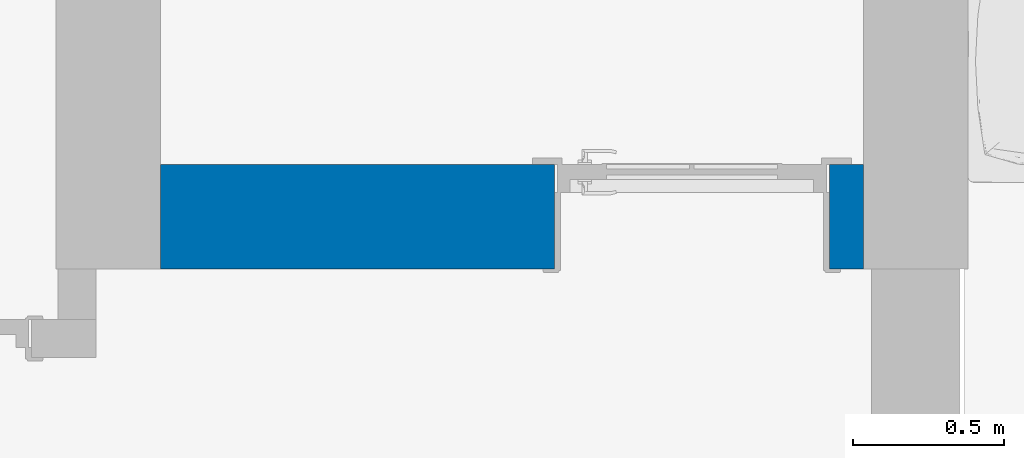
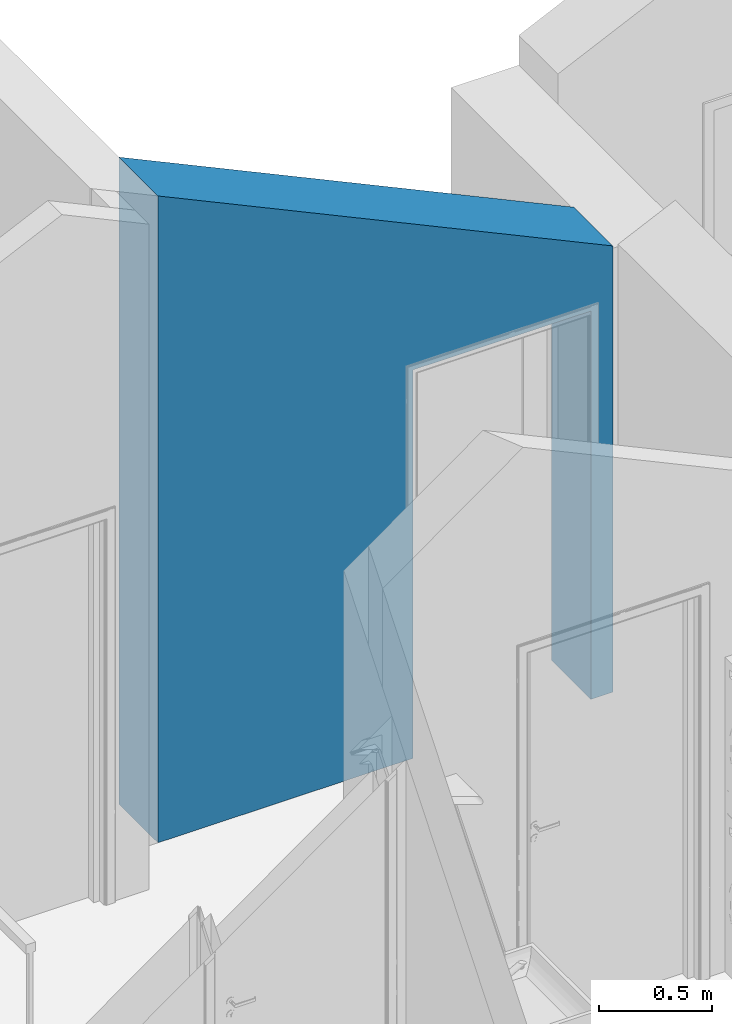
# One storey, part 20 of 44: 1 wall, 1 opening.
"""IFC2X3 building model written with IfcOpenShell, lengths in millimetres."""

from ifc_helpers import new_model, entity, si_unit, converted_unit, direction, frame, frame_2d, origin, place, context, subcontext, project, spatial, polyline, rectangle, extrude, clip, bounded_halfspace, material, layer, layer_set, layer_usage, type_object, element, save


model = new_model("IFC2X3")

# Units and contexts
model_context = context("Model", 3, precision=0.01, world=origin(), true_north=direction((0.0, 1.0)))
body_context = subcontext(model_context, "Body", "Model", "MODEL_VIEW")
ifc_project = project(units=[si_unit("LENGTHUNIT", "METRE", prefix="MILLI"), si_unit("AREAUNIT", "SQUARE_METRE"), si_unit("VOLUMEUNIT", "CUBIC_METRE"), converted_unit("PLANEANGLEUNIT", "DEGREE", entity("IfcPlaneAngleMeasure", 0.017453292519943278), si_unit("PLANEANGLEUNIT", "RADIAN"), dimensions=[0, 0, 0, 0, 0, 0, 0])], contexts=[model_context])

# Site, building, storey
site_placement = place(None, origin())
site = spatial("IfcSite", under=ifc_project, at=site_placement, Name="Default", CompositionType="ELEMENT")
building_placement = place(site_placement, origin())
building = spatial("IfcBuilding", under=site, at=building_placement, CompositionType="ELEMENT")
storey_placement = place(building_placement, frame((0.0, 0.0, 2681.0)))
storey = spatial("IfcBuildingStorey", under=building, at=storey_placement, Name="Et. 2", CompositionType="ELEMENT", Elevation=2681.0)

# Wall, opening
ifc_material_1 = material(Name="Vegg - Stående Kledning_smal - HVIT")
ifc_layer_1 = layer(ifc_material_1, 19.0)
ifc_material_2 = material(Name="Vegg - Utlekting")
ifc_layer_2 = layer(ifc_material_2, 36.0)
ifc_layer_3 = layer(ifc_material_2, 23.0)
ifc_material_3 = material(Name="Vegg - Gips - GU")
ifc_layer_4 = layer(ifc_material_3, 9.0)
ifc_material_4 = material(Name="Vegg - Stender - Isolert")
ifc_layer_5 = layer(ifc_material_4, 198.0)
ifc_material_5 = material(Name="Vegg - Påforing - Isolert")
ifc_layer_6 = layer(ifc_material_5, 48.0)
ifc_material_6 = material(Name="Vegg - Gips - Hvit")
ifc_layer_7 = layer(ifc_material_6, 13.000000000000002)
ifc_layer_set = layer_set([ifc_layer_1, ifc_layer_2, ifc_layer_3, ifc_layer_4, ifc_layer_5, ifc_layer_6, ifc_layer_7], Name="Basic Wall:23-Kv(sm)TIG-19_36_23_9_198_48_13")
ifc_layer_usage = layer_usage(ifc_layer_set, "AXIS2", "NEGATIVE", 173.0)
wall_type = type_object("IfcWallType", Name="Basic Wall:23-Kv(sm)TIG-19_36_23_9_198_48_13", PredefinedType="STANDARD", material=ifc_layer_set)
wall_placement = place(storey_placement, frame((19678.009586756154, 15822.180957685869, 0.0)))
wall = element("IfcWallStandardCase", 1, at=wall_placement, inside=storey, type_object=wall_type, material=ifc_layer_usage, Name="Basic Wall:23-Kv(sm)TIG-19_36_23_9_198_48_13", context=body_context, shape_type="Clipping", body=[
    clip(extrude(rectangle(XDim=2327.000000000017, YDim=345.9999999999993, at=frame_2d((1163.5000000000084, -9.094947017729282e-13), x_axis=(1.0, 0.0))), origin(), (0.0, 0.0, 1.0), 3497.6882272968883), bounded_halfspace(frame((0.0, -173.0, 3497.6882272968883), z_axis=(0.42261826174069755, 0.0, 0.9063077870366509), x_axis=(0.0, 1.0, 0.0)), False, frame((0.0, -173.0, 3497.6882272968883)), polyline([(0.0, 0.0), (2327.0, 0.0), (2327.0, 346.0), (0.0, 346.0), (0.0, 0.0)]))),
])
opening_placement = place(wall_placement, frame((1304.0, -173.0, 0.0)))
element("IfcOpeningElement", 2, at=opening_placement, cuts=wall, Name="YD Dynamiske sprosser omramming:9x21M:1", ObjectType="Opening", context=body_context, shape_type="SweptSolid", body=[
    extrude(rectangle(XDim=910.00000000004, YDim=2100.000000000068, at=frame_2d((1050.000000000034, 455.00000000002), x_axis=(0.0, 1.0))), frame((0.0, 0.0, 0.0), z_axis=(0.0, 1.0, 0.0), x_axis=(0.0, 0.0, 1.0)), (0.0, 0.0, 1.0), 346.0),
])

save(model, "model.ifc")
